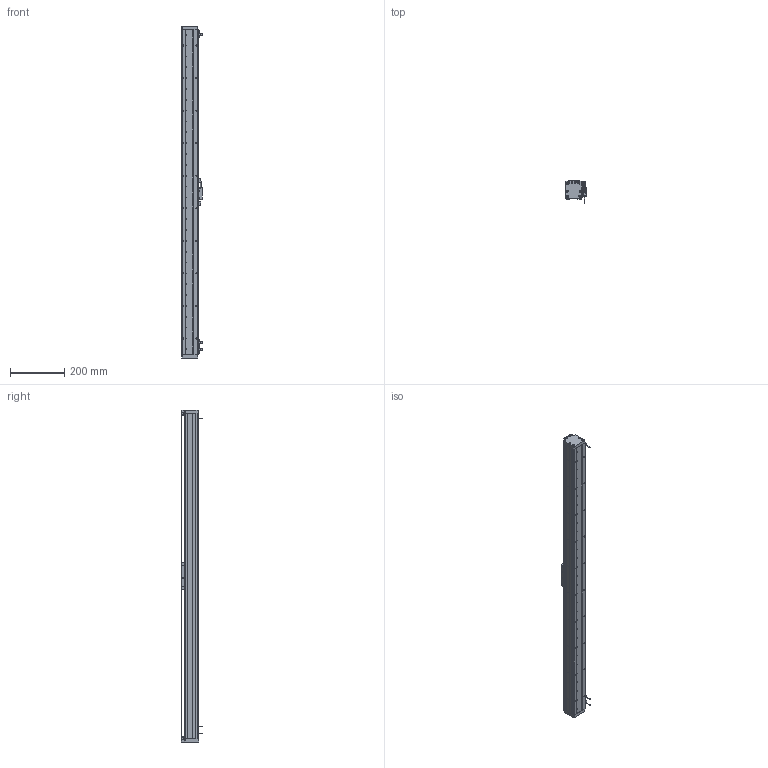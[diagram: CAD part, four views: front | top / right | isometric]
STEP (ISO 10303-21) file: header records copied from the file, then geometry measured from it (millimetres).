
FILE_DESCRIPTION (( 'STEP AP203' ), '1' );
FILE_NAME ('DA-A60-B1-T1060-C010-0.2 眻盄萇儂.STEP', '2025-08-13T02:04:54', ( '' ), ( '' ), 'SwSTEP 2.0', 'SolidWorks 2019', '' );
FILE_SCHEMA (( 'CONFIG_CONTROL_DESIGN' ));
Length unit declared in the file: millimetre
Products named in the file (24): 葩璃 DA60-HK-DP-01 結え^AU60-V 幗紩賑怢; 复件 BAKM01-W030-C1-TP-0.2 直线电机动子^DA-A60-B1-T-C010-0.2-N 直线电机; DA60-B1-HT-B-03 賑雄怢啣; 葩璃 PM-T45^DA-A60-B1-T-C010-0.2-N 眻盄萇儂; 复件 纯铜油杯 6x6mm^AU60-V 滚珠滑台; DA-A60-B1-T1060-C010-0.2 眻盄萇儂; 葩璃 AKM01-W030-TRL^DA-A60-B1-T-C010-0.2-N 眻盄萇儂; DA60嶺詩湍郪璃-T1060; 复件 XD-U-02  磁栅尺^DA-A60-B1-T-C010-0.2-N 直线电机; AU60-L 菁釱絳寢; 13679-0000-004-00 傷啣; 复件 六角薄螺母 M3^DA-A60-B1-T-C010-0.2-N 直线电机(GB_FASTENER_NUT_STNAB M3-C); DA60-XJ-00 砎蝶結輸; AU60-V 幗紩賑怢; 复件 DA60-GT-T-00 底座钢轨^AU60-L 底座导轨; DA60-YT-B1-HT-B-01 珨极趙賑雄怢啣; 13679-0000-006-00  钢带压块(默认); 复件 DA60-DMT-DTJ-00 读数头支架^DA-A60-B1-T-C010-0.2-N 直线电机; IU-AU60-L-00 菁釱(1200); DA-A60-GD-1020-00 钢带盖板(默认); 复件 DA60-B1-GT-00 滑块钢轨^DA60-YT-B1-HT-B-01 一体化滑动台板; 葩璃 DMT-010 1米m 0.2M^DA-A60-B1-T-C010-0.2-N 眻盄萇儂; 复件 DA-A60-GYP-DMT-00 光电感应片^DA-A60-B1-T-C010-0.2-N 直线电机(默认); 13679-0000-005-00 詩湍嶺輸
Assembly tree (38 placements, depth 4):
  DA-A60-B1-T1060-C010-0.2 眻盄萇儂
    AU60-L 菁釱絳寢
      IU-AU60-L-00 菁釱(1200)
      复件 DA60-GT-T-00 底座钢轨^AU60-L 底座导轨  x2
    AU60-V 幗紩賑怢
      DA60-YT-B1-HT-B-01 珨极趙賑雄怢啣
        DA60-B1-HT-B-03 賑雄怢啣
        复件 DA60-B1-GT-00 滑块钢轨^DA60-YT-B1-HT-B-01 一体化滑动台板  x2
      葩璃 DA60-HK-DP-01 結え^AU60-V 幗紩賑怢  x2
      复件 纯铜油杯 6x6mm^AU60-V 滚珠滑台
    DA60嶺詩湍郪璃-T1060
      13679-0000-006-00  钢带压块(默认)  x2
      DA-A60-GD-1020-00 钢带盖板(默认)
      13679-0000-004-00 傷啣  x2
      DA60-XJ-00 砎蝶結輸  x2
      13679-0000-005-00 詩湍嶺輸  x2
    复件 DA-A60-GYP-DMT-00 光电感应片^DA-A60-B1-T-C010-0.2-N 直线电机(默认)  x2
    复件 DA60-DMT-DTJ-00 读数头支架^DA-A60-B1-T-C010-0.2-N 直线电机
    葩璃 DMT-010 1米m 0.2M^DA-A60-B1-T-C010-0.2-N 眻盄萇儂
    复件 BAKM01-W030-C1-TP-0.2 直线电机动子^DA-A60-B1-T-C010-0.2-N 直线电机
    葩璃 AKM01-W030-TRL^DA-A60-B1-T-C010-0.2-N 眻盄萇儂
    葩璃 PM-T45^DA-A60-B1-T-C010-0.2-N 眻盄萇儂  x3
    复件 XD-U-02  磁栅尺^DA-A60-B1-T-C010-0.2-N 直线电机
    复件 六角薄螺母 M3^DA-A60-B1-T-C010-0.2-N 直线电机(GB_FASTENER_NUT_STNAB M3-C)  x6
Bounding box: 76.95 x 80 x 1224 mm (x, y, z)
Volume: 2400212.8 mm3; surface area: 864768.6 mm2
Topology: 39 solids, 41 shells, 2171 faces, 6022 edges, 3843 vertices
Faces by surface type: plane 1003, cylinder 970, cone 186, bspline 7, torus 4, sphere 1
Entity records: 62508 total; most frequent: CARTESIAN_POINT 14568, ORIENTED_EDGE 9592, DIRECTION 9222, EDGE_CURVE 4796, AXIS2_PLACEMENT_3D 3248, VERTEX_POINT 3121, LINE 2726, VECTOR 2726
